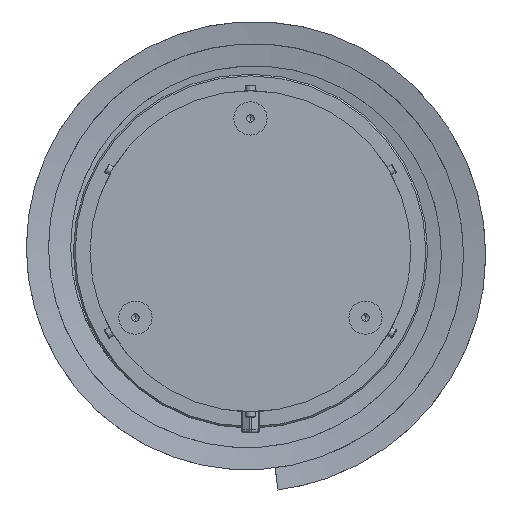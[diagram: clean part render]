
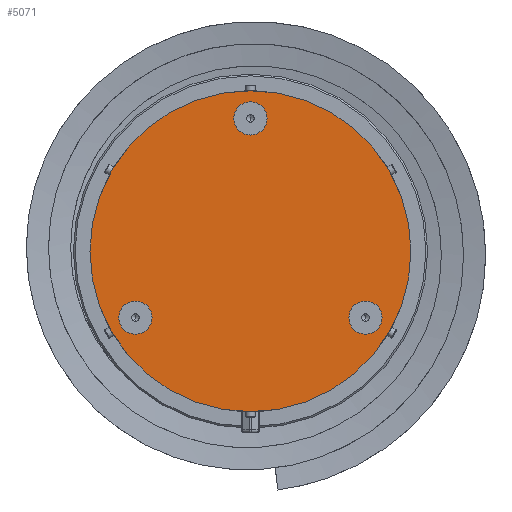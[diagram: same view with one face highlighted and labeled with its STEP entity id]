
A CAD part, front view. The second image highlights one B-rep face of the part: STEP entity #5071.
In plain terms, the highlighted planar face has unit normal (0, -1, 0).
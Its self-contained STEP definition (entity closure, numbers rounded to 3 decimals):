
#11 = DIRECTION ( 'NONE',  ( 0., -1., 0. ) ) ;
#115 = AXIS2_PLACEMENT_3D ( 'NONE', #4642, #5480, #11122 ) ;
#350 = VERTEX_POINT ( 'NONE', #7642 ) ;
#386 = FACE_BOUND ( 'NONE', #5726, .T. ) ;
#596 = CARTESIAN_POINT ( 'NONE',  ( 103.923, 0., -45. ) ) ;
#651 = DIRECTION ( 'NONE',  ( 0., -1., 0. ) ) ;
#817 = EDGE_CURVE ( 'NONE', #5468, #6759, #6910, .T. ) ;
#999 = AXIS2_PLACEMENT_3D ( 'NONE', #4708, #11, #7606 ) ;
#1316 = CARTESIAN_POINT ( 'NONE',  ( 0., 0., 135. ) ) ;
#1864 = DIRECTION ( 'NONE',  ( 0., -1., 0. ) ) ;
#1867 = ORIENTED_EDGE ( 'NONE', *, *, #10372, .F. ) ;
#1970 = FACE_OUTER_BOUND ( 'NONE', #12088, .T. ) ;
#1991 = DIRECTION ( 'NONE',  ( 0., 0., 1. ) ) ;
#2166 = AXIS2_PLACEMENT_3D ( 'NONE', #4739, #11375, #1991 ) ;
#2214 = CIRCLE ( 'NONE', #11486, 15. ) ;
#2372 = CIRCLE ( 'NONE', #999, 15. ) ;
#2803 = DIRECTION ( 'NONE',  ( 0., 0., 1. ) ) ;
#2918 = DIRECTION ( 'NONE',  ( 0., 0., -1. ) ) ;
#3716 = PLANE ( 'NONE',  #2166 ) ;
#3728 = ORIENTED_EDGE ( 'NONE', *, *, #5080, .T. ) ;
#3778 = CARTESIAN_POINT ( 'NONE',  ( 103.923, 0., -60. ) ) ;
#3815 = ORIENTED_EDGE ( 'NONE', *, *, #817, .F. ) ;
#3855 = VERTEX_POINT ( 'NONE', #11099 ) ;
#4262 = DIRECTION ( 'NONE',  ( 0., -1., 0. ) ) ;
#4352 = EDGE_CURVE ( 'NONE', #6165, #3855, #11952, .T. ) ;
#4508 = AXIS2_PLACEMENT_3D ( 'NONE', #9172, #651, #6348 ) ;
#4642 = CARTESIAN_POINT ( 'NONE',  ( 0., 0., 0. ) ) ;
#4708 = CARTESIAN_POINT ( 'NONE',  ( -103.923, 0., -60. ) ) ;
#4739 = CARTESIAN_POINT ( 'NONE',  ( 0., 0., 0. ) ) ;
#4779 = CARTESIAN_POINT ( 'NONE',  ( 0., 0., 120. ) ) ;
#4827 = VERTEX_POINT ( 'NONE', #596 ) ;
#5071 = ADVANCED_FACE ( 'NONE', ( #5713, #386, #10333, #1970 ), #3716, .F. ) ;
#5072 = ORIENTED_EDGE ( 'NONE', *, *, #5871, .F. ) ;
#5080 = EDGE_CURVE ( 'NONE', #350, #11133, #11742, .T. ) ;
#5094 = EDGE_CURVE ( 'NONE', #6759, #5468, #6839, .T. ) ;
#5339 = VERTEX_POINT ( 'NONE', #7947 ) ;
#5468 = VERTEX_POINT ( 'NONE', #1316 ) ;
#5480 = DIRECTION ( 'NONE',  ( 0., -1., 0. ) ) ;
#5543 = ORIENTED_EDGE ( 'NONE', *, *, #11507, .F. ) ;
#5713 = FACE_BOUND ( 'NONE', #11780, .T. ) ;
#5726 = EDGE_LOOP ( 'NONE', ( #5543, #1867 ) ) ;
#5871 = EDGE_CURVE ( 'NONE', #3855, #6165, #2372, .T. ) ;
#6062 = CARTESIAN_POINT ( 'NONE',  ( 0., 0., 120. ) ) ;
#6128 = DIRECTION ( 'NONE',  ( 0., 0., 1. ) ) ;
#6165 = VERTEX_POINT ( 'NONE', #6466 ) ;
#6200 = AXIS2_PLACEMENT_3D ( 'NONE', #6651, #10365, #2918 ) ;
#6348 = DIRECTION ( 'NONE',  ( 0., 0., 1. ) ) ;
#6466 = CARTESIAN_POINT ( 'NONE',  ( -103.923, 0., -45. ) ) ;
#6620 = EDGE_CURVE ( 'NONE', #11133, #350, #7100, .T. ) ;
#6651 = CARTESIAN_POINT ( 'NONE',  ( 0., 0., 0. ) ) ;
#6759 = VERTEX_POINT ( 'NONE', #11796 ) ;
#6839 = CIRCLE ( 'NONE', #7899, 15. ) ;
#6910 = CIRCLE ( 'NONE', #9306, 15. ) ;
#7100 = CIRCLE ( 'NONE', #115, 145. ) ;
#7101 = ORIENTED_EDGE ( 'NONE', *, *, #5094, .F. ) ;
#7606 = DIRECTION ( 'NONE',  ( 0., 0., 1. ) ) ;
#7642 = CARTESIAN_POINT ( 'NONE',  ( 0., 0., 145. ) ) ;
#7873 = DIRECTION ( 'NONE',  ( 0., 0., 1. ) ) ;
#7899 = AXIS2_PLACEMENT_3D ( 'NONE', #4779, #12265, #2803 ) ;
#7947 = CARTESIAN_POINT ( 'NONE',  ( 103.923, 0., -75. ) ) ;
#8580 = CIRCLE ( 'NONE', #10257, 15. ) ;
#8882 = CARTESIAN_POINT ( 'NONE',  ( 0., 0., -145. ) ) ;
#9172 = CARTESIAN_POINT ( 'NONE',  ( -103.923, 0., -60. ) ) ;
#9306 = AXIS2_PLACEMENT_3D ( 'NONE', #6062, #9868, #7873 ) ;
#9868 = DIRECTION ( 'NONE',  ( 0., -1., 0. ) ) ;
#10003 = CARTESIAN_POINT ( 'NONE',  ( 103.923, 0., -60. ) ) ;
#10257 = AXIS2_PLACEMENT_3D ( 'NONE', #3778, #1864, #12303 ) ;
#10262 = ORIENTED_EDGE ( 'NONE', *, *, #6620, .T. ) ;
#10333 = FACE_BOUND ( 'NONE', #11398, .T. ) ;
#10365 = DIRECTION ( 'NONE',  ( 0., -1., 0. ) ) ;
#10372 = EDGE_CURVE ( 'NONE', #5339, #4827, #2214, .T. ) ;
#11099 = CARTESIAN_POINT ( 'NONE',  ( -103.923, 0., -75. ) ) ;
#11122 = DIRECTION ( 'NONE',  ( 0., 0., -1. ) ) ;
#11133 = VERTEX_POINT ( 'NONE', #8882 ) ;
#11218 = ORIENTED_EDGE ( 'NONE', *, *, #4352, .F. ) ;
#11375 = DIRECTION ( 'NONE',  ( 0., 1., 0. ) ) ;
#11398 = EDGE_LOOP ( 'NONE', ( #3815, #7101 ) ) ;
#11486 = AXIS2_PLACEMENT_3D ( 'NONE', #10003, #4262, #6128 ) ;
#11507 = EDGE_CURVE ( 'NONE', #4827, #5339, #8580, .T. ) ;
#11742 = CIRCLE ( 'NONE', #6200, 145. ) ;
#11780 = EDGE_LOOP ( 'NONE', ( #11218, #5072 ) ) ;
#11796 = CARTESIAN_POINT ( 'NONE',  ( 0., 0., 105. ) ) ;
#11952 = CIRCLE ( 'NONE', #4508, 15. ) ;
#12088 = EDGE_LOOP ( 'NONE', ( #10262, #3728 ) ) ;
#12265 = DIRECTION ( 'NONE',  ( 0., -1., 0. ) ) ;
#12303 = DIRECTION ( 'NONE',  ( 0., 0., 1. ) ) ;
